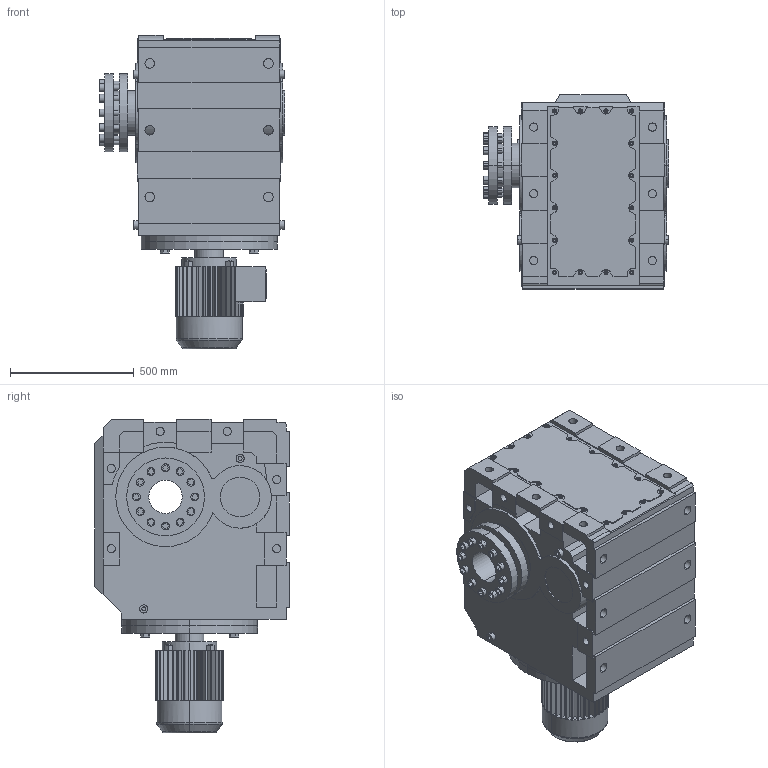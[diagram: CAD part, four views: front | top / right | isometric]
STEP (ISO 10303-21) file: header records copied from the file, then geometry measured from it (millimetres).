
FILE_DESCRIPTION(('Open CASCADE Model'),'2;1');
FILE_NAME('Open CASCADE Shape Model','2019-05-14T15:01:34',('Author'),( 'Open CASCADE'),'Open CASCADE STEP processor 6.3','Open CASCADE 6.3' ,'Unknown');
FILE_SCHEMA(('AUTOMOTIVE_DESIGN_CC2 { 1 2 10303 214 -1 1 5 4 }'));
Length unit declared in the file: millimetre
Products named in the file (4): 59_KH167DV160M-A; K167‵187_167.step; 萇儂_550-DV160M-433-545-275-230.step; 梠攫諾陑粣K_167.step
Assembly tree (3 placements, depth 2):
  59_KH167DV160M-A
    K167‵187_167.step
    萇儂_550-DV160M-433-545-275-230.step
    梠攫諾陑粣K_167.step
Bounding box: 748.48 x 786 x 1270 mm (x, y, z)
Volume: 365008146 mm3; surface area: 6467874.2 mm2
Topology: 3 solids, 3 shells, 1056 faces, 2724 edges, 1781 vertices
Faces by surface type: plane 712, cylinder 338, torus 4, cone 2
Entity records: 67572 total; most frequent: CARTESIAN_POINT 15190, DIRECTION 9150, ORIENTED_EDGE 5448, PCURVE 5448, DEFINITIONAL_REPRESENTATION 5448, LINE 4907, VECTOR 4907, EDGE_CURVE 2724
